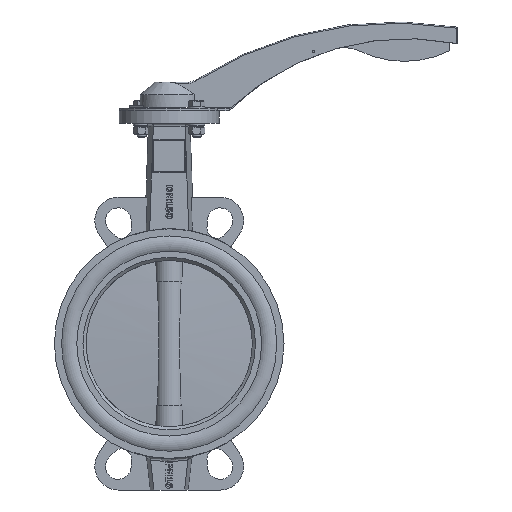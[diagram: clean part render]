
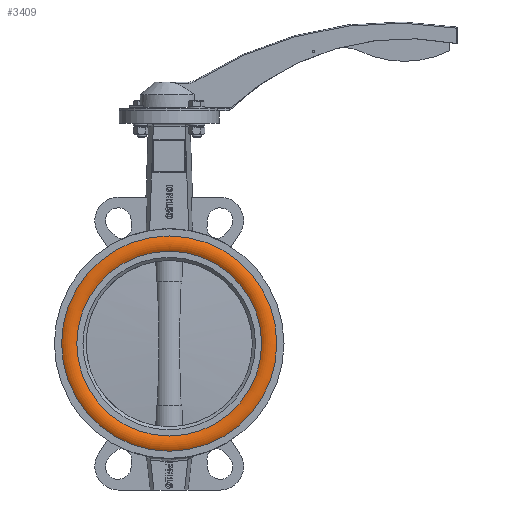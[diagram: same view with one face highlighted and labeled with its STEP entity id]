
A CAD part, left-side view. The second image highlights one B-rep face of the part: STEP entity #3409.
In plain terms, the highlighted toroidal (fillet/blend) face has major radius 90.177 mm and minor radius 11.889 mm.
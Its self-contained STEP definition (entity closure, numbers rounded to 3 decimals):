
#3409=ADVANCED_FACE('',(#6570,#6572),#6574,.T.);
#6570=FACE_OUTER_BOUND('',#6571,.T.);
#6571=EDGE_LOOP('',(#10362));
#6572=FACE_OUTER_BOUND('',#6573,.T.);
#6573=EDGE_LOOP('',(#10363));
#6574=TOROIDAL_SURFACE('',#6575,90.177,11.889);
#6575=AXIS2_PLACEMENT_3D('',#6576,#6577,#6578);
#6576=CARTESIAN_POINT('',(-18.073,0.,0.));
#6577=DIRECTION('',(-1.,0.,0.));
#6578=DIRECTION('',(0.,0.,1.));
#10362=ORIENTED_EDGE('',*,*,#11980,.T.);
#10363=ORIENTED_EDGE('',*,*,#11976,.F.);
#11976=EDGE_CURVE('',#13966,#13966,#13967,.T.);
#11980=EDGE_CURVE('',#13974,#13974,#13975,.T.);
#13966=VERTEX_POINT('',#19990);
#13967=CIRCLE('',#19991,83.34);
#13974=VERTEX_POINT('',#20010);
#13975=CIRCLE('',#20011,97.013);
#19990=CARTESIAN_POINT('',(-27.8,0.,83.34));
#19991=AXIS2_PLACEMENT_3D('',#19992,#19993,#19994);
#19992=CARTESIAN_POINT('',(-27.8,0.,0.));
#19993=DIRECTION('',(-1.,0.,0.));
#19994=DIRECTION('',(0.,0.,1.));
#20010=CARTESIAN_POINT('',(-27.8,0.,97.013));
#20011=AXIS2_PLACEMENT_3D('',#20012,#20013,#20014);
#20012=CARTESIAN_POINT('',(-27.8,0.,0.));
#20013=DIRECTION('',(-1.,0.,0.));
#20014=DIRECTION('',(0.,0.,1.));
